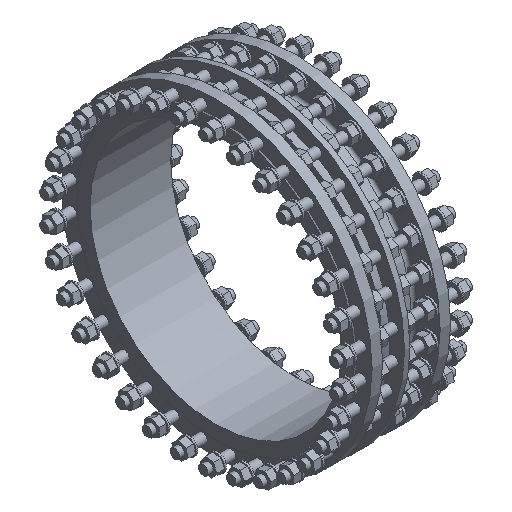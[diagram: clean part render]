
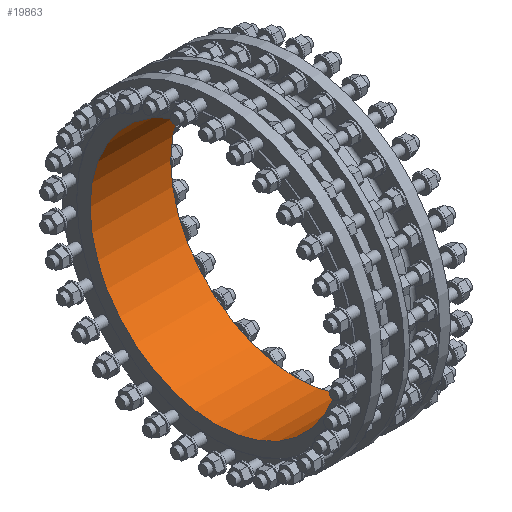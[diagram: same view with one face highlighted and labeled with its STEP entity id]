
A CAD part, isometric view. The second image highlights one B-rep face of the part: STEP entity #19863.
In plain terms, the highlighted cylindrical face has radius 600 mm (diameter 1200 mm), a full revolution.
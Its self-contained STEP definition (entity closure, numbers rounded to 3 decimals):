
#1121 = CARTESIAN_POINT ( 'NONE',  ( 0., 0., 0. ) ) ;
#3002 = AXIS2_PLACEMENT_3D ( 'NONE', #10499, #6231, #25891 ) ;
#3864 = EDGE_LOOP ( 'NONE', ( #13957 ) ) ;
#6231 = DIRECTION ( 'NONE',  ( 1., 0., 0. ) ) ;
#6932 = DIRECTION ( 'NONE',  ( 0., 0., 1. ) ) ;
#8949 = FACE_OUTER_BOUND ( 'NONE', #20006, .T. ) ;
#10499 = CARTESIAN_POINT ( 'NONE',  ( -80., 0., 0. ) ) ;
#10765 = EDGE_CURVE ( 'NONE', #33848, #33848, #34417, .T. ) ;
#13957 = ORIENTED_EDGE ( 'NONE', *, *, #10765, .F. ) ;
#15712 = ORIENTED_EDGE ( 'NONE', *, *, #21110, .F. ) ;
#16797 = FACE_OUTER_BOUND ( 'NONE', #3864, .T. ) ;
#17346 = CARTESIAN_POINT ( 'NONE',  ( 305., 0., 600. ) ) ;
#18477 = CARTESIAN_POINT ( 'NONE',  ( -80., 0., -600. ) ) ;
#19863 = ADVANCED_FACE ( 'NONE', ( #8949, #16797 ), #24342, .F. ) ;
#20006 = EDGE_LOOP ( 'NONE', ( #15712 ) ) ;
#21110 = EDGE_CURVE ( 'NONE', #40811, #40811, #35191, .T. ) ;
#24342 = CYLINDRICAL_SURFACE ( 'NONE', #47975, 600. ) ;
#25891 = DIRECTION ( 'NONE',  ( 0., 0., -1. ) ) ;
#26385 = CARTESIAN_POINT ( 'NONE',  ( 305., 0., 0. ) ) ;
#29656 = DIRECTION ( 'NONE',  ( -1., 0., 0. ) ) ;
#32169 = DIRECTION ( 'NONE',  ( 0., 0., 1. ) ) ;
#33848 = VERTEX_POINT ( 'NONE', #18477 ) ;
#34417 = CIRCLE ( 'NONE', #3002, 600. ) ;
#35191 = CIRCLE ( 'NONE', #44889, 600. ) ;
#39737 = DIRECTION ( 'NONE',  ( -1., 0., 0. ) ) ;
#40811 = VERTEX_POINT ( 'NONE', #17346 ) ;
#44889 = AXIS2_PLACEMENT_3D ( 'NONE', #26385, #29656, #6932 ) ;
#47975 = AXIS2_PLACEMENT_3D ( 'NONE', #1121, #39737, #32169 ) ;
